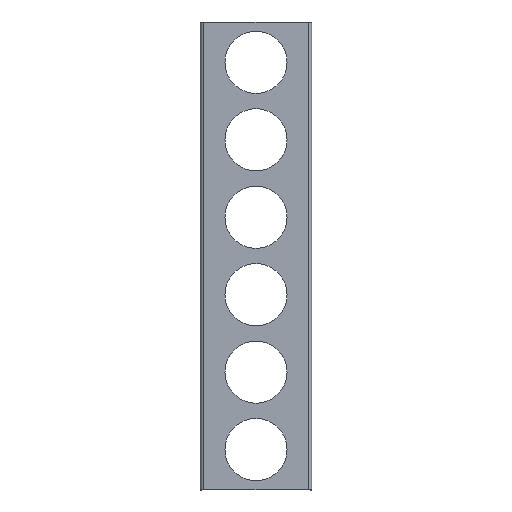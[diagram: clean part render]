
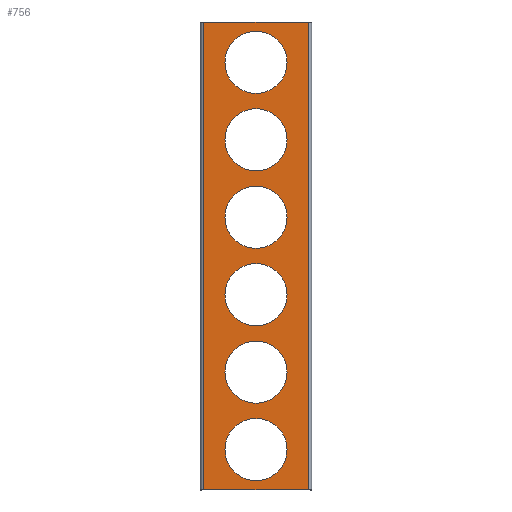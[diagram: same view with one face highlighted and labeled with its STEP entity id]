
A CAD part, top view. The second image highlights one B-rep face of the part: STEP entity #756.
In plain terms, the highlighted planar face has unit normal (0, 0, 1).
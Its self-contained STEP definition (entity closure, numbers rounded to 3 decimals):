
#3 = CARTESIAN_POINT ( 'NONE',  ( 0., 108., 40. ) ) ;
#4 = DIRECTION ( 'NONE',  ( 1., 0., 0. ) ) ;
#5 = DIRECTION ( 'NONE',  ( 0., 0., -1. ) ) ;
#8 = CARTESIAN_POINT ( 'NONE',  ( 0., 108., 40. ) ) ;
#9 = CARTESIAN_POINT ( 'NONE',  ( 48., 0., 40. ) ) ;
#13 = CARTESIAN_POINT ( 'NONE',  ( -48., 429., 40. ) ) ;
#18 = VERTEX_POINT ( 'NONE', #279 ) ;
#19 = DIRECTION ( 'NONE',  ( 1., 0., 0. ) ) ;
#20 = DIRECTION ( 'NONE',  ( 0., 0., -1. ) ) ;
#21 = CARTESIAN_POINT ( 'NONE',  ( 28.5, 108., 40. ) ) ;
#22 = CARTESIAN_POINT ( 'NONE',  ( 0., 321., 40. ) ) ;
#23 = CARTESIAN_POINT ( 'NONE',  ( 0., 250., 40. ) ) ;
#31 = CARTESIAN_POINT ( 'NONE',  ( 28.5, 37., 40. ) ) ;
#35 = VERTEX_POINT ( 'NONE', #39 ) ;
#38 = DIRECTION ( 'NONE',  ( 1., 0., 0. ) ) ;
#39 = CARTESIAN_POINT ( 'NONE',  ( 28.5, 250., 40. ) ) ;
#40 = DIRECTION ( 'NONE',  ( 0., 0., -1. ) ) ;
#42 = CARTESIAN_POINT ( 'NONE',  ( 0., 392., 40. ) ) ;
#43 = DIRECTION ( 'NONE',  ( 1., 0., 0. ) ) ;
#46 = DIRECTION ( 'NONE',  ( 0., 0., -1. ) ) ;
#49 = VERTEX_POINT ( 'NONE', #311 ) ;
#55 = DIRECTION ( 'NONE',  ( 1., 0., 0. ) ) ;
#56 = VERTEX_POINT ( 'NONE', #31 ) ;
#57 = CARTESIAN_POINT ( 'NONE',  ( 1., 429., 40. ) ) ;
#61 = VERTEX_POINT ( 'NONE', #21 ) ;
#65 = DIRECTION ( 'NONE',  ( 1., 0., 0. ) ) ;
#66 = VERTEX_POINT ( 'NONE', #13 ) ;
#67 = DIRECTION ( 'NONE',  ( 0., 0., -1. ) ) ;
#69 = CARTESIAN_POINT ( 'NONE',  ( 0., 321., 40. ) ) ;
#70 = VERTEX_POINT ( 'NONE', #9 ) ;
#71 = DIRECTION ( 'NONE',  ( 1., 0., 0. ) ) ;
#72 = DIRECTION ( 'NONE',  ( 0., 0., -1. ) ) ;
#75 = CARTESIAN_POINT ( 'NONE',  ( 0., 37., 40. ) ) ;
#76 = DIRECTION ( 'NONE',  ( 1., 0., 0. ) ) ;
#77 = DIRECTION ( 'NONE',  ( 0., 0., -1. ) ) ;
#78 = CARTESIAN_POINT ( 'NONE',  ( 0., 179., 40. ) ) ;
#82 = CARTESIAN_POINT ( 'NONE',  ( 0., 179., 40. ) ) ;
#116 = DIRECTION ( 'NONE',  ( 0., -1., 0. ) ) ;
#117 = CARTESIAN_POINT ( 'NONE',  ( -48., 479., 40. ) ) ;
#129 = DIRECTION ( 'NONE',  ( 0., 0., -1. ) ) ;
#132 = DIRECTION ( 'NONE',  ( 0., 0., -1. ) ) ;
#144 = DIRECTION ( 'NONE',  ( 1., 0., 0. ) ) ;
#145 = DIRECTION ( 'NONE',  ( 1., 0., 0. ) ) ;
#147 = DIRECTION ( 'NONE',  ( -1., 0., 0. ) ) ;
#154 = DIRECTION ( 'NONE',  ( 0., -1., 0. ) ) ;
#159 = CARTESIAN_POINT ( 'NONE',  ( -47., 0., 40. ) ) ;
#167 = CARTESIAN_POINT ( 'NONE',  ( 48., 0., 40. ) ) ;
#189 = VERTEX_POINT ( 'NONE', #383 ) ;
#199 = VERTEX_POINT ( 'NONE', #381 ) ;
#224 = VERTEX_POINT ( 'NONE', #374 ) ;
#227 = DIRECTION ( 'NONE',  ( 1., 0., 0. ) ) ;
#228 = DIRECTION ( 'NONE',  ( 0., 0., -1. ) ) ;
#229 = CARTESIAN_POINT ( 'NONE',  ( 0., 392., 40. ) ) ;
#232 = VERTEX_POINT ( 'NONE', #372 ) ;
#235 = VERTEX_POINT ( 'NONE', #371 ) ;
#238 = VERTEX_POINT ( 'NONE', #370 ) ;
#241 = VERTEX_POINT ( 'NONE', #369 ) ;
#243 = DIRECTION ( 'NONE',  ( 1., 0., 0. ) ) ;
#244 = DIRECTION ( 'NONE',  ( 0., 0., -1. ) ) ;
#246 = CARTESIAN_POINT ( 'NONE',  ( 0., 250., 40. ) ) ;
#250 = DIRECTION ( 'NONE',  ( 1., 0., 0. ) ) ;
#251 = DIRECTION ( 'NONE',  ( 0., 0., -1. ) ) ;
#259 = CARTESIAN_POINT ( 'NONE',  ( 0., 37., 40. ) ) ;
#279 = CARTESIAN_POINT ( 'NONE',  ( 28.5, 392., 40. ) ) ;
#311 = CARTESIAN_POINT ( 'NONE',  ( -28.5, 179., 40. ) ) ;
#320 = VERTEX_POINT ( 'NONE', #363 ) ;
#330 = DIRECTION ( 'NONE',  ( 1., 0., 0. ) ) ;
#331 = DIRECTION ( 'NONE',  ( 0., 0., 1. ) ) ;
#332 = PLANE ( 'NONE',  #841 ) ;
#339 = VERTEX_POINT ( 'NONE', #361 ) ;
#342 = CARTESIAN_POINT ( 'NONE',  ( 2., 239.5, 40. ) ) ;
#361 = CARTESIAN_POINT ( 'NONE',  ( -28.5, 108., 40. ) ) ;
#363 = CARTESIAN_POINT ( 'NONE',  ( -28.5, 321., 40. ) ) ;
#369 = CARTESIAN_POINT ( 'NONE',  ( -28.5, 250., 40. ) ) ;
#370 = CARTESIAN_POINT ( 'NONE',  ( 28.5, 179., 40. ) ) ;
#371 = CARTESIAN_POINT ( 'NONE',  ( 48., 429., 40. ) ) ;
#372 = CARTESIAN_POINT ( 'NONE',  ( 28.5, 321., 40. ) ) ;
#374 = CARTESIAN_POINT ( 'NONE',  ( -28.5, 392., 40. ) ) ;
#381 = CARTESIAN_POINT ( 'NONE',  ( -48., 0., 40. ) ) ;
#383 = CARTESIAN_POINT ( 'NONE',  ( -28.5, 37., 40. ) ) ;
#408 = EDGE_LOOP ( 'NONE', ( #515, #517 ) ) ;
#438 = ORIENTED_EDGE ( 'NONE', *, *, #894, .T. ) ;
#452 = ORIENTED_EDGE ( 'NONE', *, *, #842, .T. ) ;
#455 = FACE_BOUND ( 'NONE', #548, .T. ) ;
#458 = ORIENTED_EDGE ( 'NONE', *, *, #912, .T. ) ;
#459 = EDGE_LOOP ( 'NONE', ( #521, #438 ) ) ;
#467 = ORIENTED_EDGE ( 'NONE', *, *, #908, .T. ) ;
#468 = EDGE_LOOP ( 'NONE', ( #520, #519 ) ) ;
#475 = FACE_BOUND ( 'NONE', #468, .T. ) ;
#477 = FACE_OUTER_BOUND ( 'NONE', #547, .T. ) ;
#479 = FACE_BOUND ( 'NONE', #535, .T. ) ;
#482 = FACE_BOUND ( 'NONE', #408, .T. ) ;
#491 = FACE_BOUND ( 'NONE', #512, .T. ) ;
#495 = FACE_BOUND ( 'NONE', #459, .T. ) ;
#512 = EDGE_LOOP ( 'NONE', ( #467, #553 ) ) ;
#514 = ORIENTED_EDGE ( 'NONE', *, *, #910, .T. ) ;
#515 = ORIENTED_EDGE ( 'NONE', *, *, #844, .T. ) ;
#516 = ORIENTED_EDGE ( 'NONE', *, *, #899, .T. ) ;
#517 = ORIENTED_EDGE ( 'NONE', *, *, #905, .T. ) ;
#519 = ORIENTED_EDGE ( 'NONE', *, *, #900, .T. ) ;
#520 = ORIENTED_EDGE ( 'NONE', *, *, #848, .T. ) ;
#521 = ORIENTED_EDGE ( 'NONE', *, *, #892, .T. ) ;
#528 = ORIENTED_EDGE ( 'NONE', *, *, #893, .T. ) ;
#535 = EDGE_LOOP ( 'NONE', ( #452, #528 ) ) ;
#542 = ORIENTED_EDGE ( 'NONE', *, *, #896, .F. ) ;
#547 = EDGE_LOOP ( 'NONE', ( #542, #458, #556, #578 ) ) ;
#548 = EDGE_LOOP ( 'NONE', ( #514, #516 ) ) ;
#553 = ORIENTED_EDGE ( 'NONE', *, *, #909, .T. ) ;
#556 = ORIENTED_EDGE ( 'NONE', *, *, #876, .F. ) ;
#578 = ORIENTED_EDGE ( 'NONE', *, *, #873, .F. ) ;
#648 = CIRCLE ( 'NONE', #811, 28.5 ) ;
#661 = CIRCLE ( 'NONE', #837, 28.5 ) ;
#665 = VECTOR ( 'NONE', #116, 1000. ) ;
#666 = LINE ( 'NONE', #117, #665 ) ;
#667 = CIRCLE ( 'NONE', #779, 28.5 ) ;
#669 = CIRCLE ( 'NONE', #780, 28.5 ) ;
#671 = CIRCLE ( 'NONE', #785, 28.5 ) ;
#674 = CIRCLE ( 'NONE', #783, 28.5 ) ;
#680 = CIRCLE ( 'NONE', #916, 28.5 ) ;
#683 = CIRCLE ( 'NONE', #794, 28.5 ) ;
#685 = CIRCLE ( 'NONE', #787, 28.5 ) ;
#690 = VECTOR ( 'NONE', #55, 1000. ) ;
#691 = LINE ( 'NONE', #57, #690 ) ;
#692 = CIRCLE ( 'NONE', #788, 28.5 ) ;
#693 = CIRCLE ( 'NONE', #789, 28.5 ) ;
#695 = CIRCLE ( 'NONE', #790, 28.5 ) ;
#720 = VECTOR ( 'NONE', #147, 1000. ) ;
#722 = LINE ( 'NONE', #159, #720 ) ;
#724 = LINE ( 'NONE', #167, #745 ) ;
#745 = VECTOR ( 'NONE', #154, 1000. ) ;
#756 = ADVANCED_FACE ( 'NONE', ( #491, #482, #475, #455, #495, #479, #477 ), #332, .T. ) ;
#779 = AXIS2_PLACEMENT_3D ( 'NONE', #22, #129, #145 ) ;
#780 = AXIS2_PLACEMENT_3D ( 'NONE', #3, #132, #144 ) ;
#783 = AXIS2_PLACEMENT_3D ( 'NONE', #23, #20, #19 ) ;
#785 = AXIS2_PLACEMENT_3D ( 'NONE', #8, #5, #4 ) ;
#787 = AXIS2_PLACEMENT_3D ( 'NONE', #69, #46, #43 ) ;
#788 = AXIS2_PLACEMENT_3D ( 'NONE', #78, #67, #65 ) ;
#789 = AXIS2_PLACEMENT_3D ( 'NONE', #75, #72, #71 ) ;
#790 = AXIS2_PLACEMENT_3D ( 'NONE', #82, #77, #76 ) ;
#794 = AXIS2_PLACEMENT_3D ( 'NONE', #42, #40, #38 ) ;
#811 = AXIS2_PLACEMENT_3D ( 'NONE', #229, #228, #227 ) ;
#837 = AXIS2_PLACEMENT_3D ( 'NONE', #246, #244, #243 ) ;
#841 = AXIS2_PLACEMENT_3D ( 'NONE', #342, #331, #330 ) ;
#842 = EDGE_CURVE ( 'NONE', #56, #189, #680, .T. ) ;
#844 = EDGE_CURVE ( 'NONE', #35, #241, #661, .T. ) ;
#848 = EDGE_CURVE ( 'NONE', #18, #224, #648, .T. ) ;
#873 = EDGE_CURVE ( 'NONE', #235, #70, #724, .T. ) ;
#876 = EDGE_CURVE ( 'NONE', #70, #199, #722, .T. ) ;
#892 = EDGE_CURVE ( 'NONE', #238, #49, #695, .T. ) ;
#893 = EDGE_CURVE ( 'NONE', #189, #56, #693, .T. ) ;
#894 = EDGE_CURVE ( 'NONE', #49, #238, #692, .T. ) ;
#896 = EDGE_CURVE ( 'NONE', #66, #235, #691, .T. ) ;
#899 = EDGE_CURVE ( 'NONE', #320, #232, #685, .T. ) ;
#900 = EDGE_CURVE ( 'NONE', #224, #18, #683, .T. ) ;
#905 = EDGE_CURVE ( 'NONE', #241, #35, #674, .T. ) ;
#908 = EDGE_CURVE ( 'NONE', #61, #339, #671, .T. ) ;
#909 = EDGE_CURVE ( 'NONE', #339, #61, #669, .T. ) ;
#910 = EDGE_CURVE ( 'NONE', #232, #320, #667, .T. ) ;
#912 = EDGE_CURVE ( 'NONE', #66, #199, #666, .T. ) ;
#916 = AXIS2_PLACEMENT_3D ( 'NONE', #259, #251, #250 ) ;
